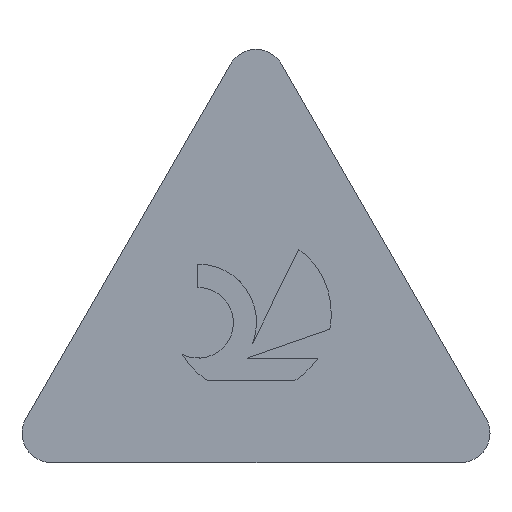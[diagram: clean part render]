
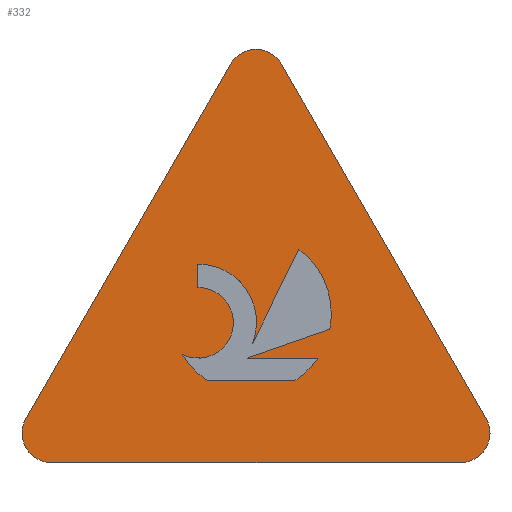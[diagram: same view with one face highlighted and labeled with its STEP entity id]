
A CAD part, top view. The second image highlights one B-rep face of the part: STEP entity #332.
In plain terms, the highlighted planar face has unit normal (0, 0, 1).
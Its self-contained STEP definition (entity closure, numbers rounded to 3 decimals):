
#138=VERTEX_POINT('',#366);
#144=VERTEX_POINT('',#373);
#146=VERTEX_POINT('',#375);
#148=EDGE_CURVE('',#264,#300,#377,.T.);
#158=EDGE_CURVE('',#202,#302,#388,.T.);
#164=EDGE_CURVE('',#302,#182,#396,.T.);
#166=VERTEX_POINT('',#398);
#170=EDGE_CURVE('',#182,#144,#403,.T.);
#174=EDGE_CURVE('',#300,#196,#408,.T.);
#182=VERTEX_POINT('',#418);
#196=VERTEX_POINT('',#433);
#198=EDGE_CURVE('',#166,#288,#435,.T.);
#202=VERTEX_POINT('',#439);
#210=EDGE_CURVE('',#146,#138,#448,.T.);
#224=EDGE_CURVE('',#314,#258,#464,.T.);
#226=EDGE_CURVE('',#272,#166,#466,.T.);
#228=EDGE_CURVE('',#248,#146,#468,.T.);
#230=VERTEX_POINT('',#470);
#242=EDGE_CURVE('',#230,#248,#484,.T.);
#248=VERTEX_POINT('',#491);
#258=VERTEX_POINT('',#502);
#264=VERTEX_POINT('',#508);
#272=VERTEX_POINT('',#516);
#286=EDGE_CURVE('',#322,#230,#531,.T.);
#288=VERTEX_POINT('',#533);
#300=VERTEX_POINT('',#546);
#302=VERTEX_POINT('',#548);
#308=EDGE_CURVE('',#138,#264,#554,.T.);
#310=EDGE_CURVE('',#258,#202,#556,.T.);
#314=VERTEX_POINT('',#560);
#316=EDGE_CURVE('',#288,#322,#562,.T.);
#320=EDGE_CURVE('',#196,#272,#566,.T.);
#322=VERTEX_POINT('',#568);
#332=ADVANCED_FACE('',(#579,#580),#581,.T.);
#336=EDGE_CURVE('',#144,#314,#585,.T.);
#366=CARTESIAN_POINT('',(2.871,2.306,0.0));
#373=CARTESIAN_POINT('',(0.344,0.595,0.0));
#375=CARTESIAN_POINT('',(2.445,1.456,0.0));
#377=LINE('',#621,#622);
#388=LINE('',#639,#640);
#396=CIRCLE('',#649,0.397);
#398=CARTESIAN_POINT('',(4.429,1.793,0.0));
#403=LINE('',#657,#658);
#408=CIRCLE('',#664,0.783);
#418=CARTESIAN_POINT('',(3.093,5.358,0.0));
#433=CARTESIAN_POINT('',(3.391,1.605,0.0));
#435=LINE('',#700,#701);
#439=CARTESIAN_POINT('',(6.531,0.595,0.0));
#448=CIRCLE('',#720,0.476);
#464=LINE('',#741,#742);
#466=CIRCLE('',#745,1.077);
#468=CIRCLE('',#748,1.077);
#470=CARTESIAN_POINT('',(3.96,1.1,0.0));
#484=LINE('',#766,#767);
#491=CARTESIAN_POINT('',(2.786,1.1,0.0));
#502=CARTESIAN_POINT('',(6.187,0.0,0.0));
#508=CARTESIAN_POINT('',(2.655,2.356,0.0));
#516=CARTESIAN_POINT('',(4.014,2.869,0.0));
#531=CIRCLE('',#828,1.077);
#533=CARTESIAN_POINT('',(3.318,1.407,0.0));
#546=CARTESIAN_POINT('',(2.655,2.669,0.0));
#548=CARTESIAN_POINT('',(3.781,5.358,0.0));
#554=CIRCLE('',#862,0.476);
#556=CIRCLE('',#865,0.397);
#560=CARTESIAN_POINT('',(0.688,0.0,0.0));
#562=LINE('',#872,#873);
#566=LINE('',#878,#879);
#568=CARTESIAN_POINT('',(4.27,1.407,0.0));
#579=FACE_BOUND('',#895,.T.);
#580=FACE_OUTER_BOUND('',#896,.T.);
#581=PLANE('',#897);
#585=CIRCLE('',#904,0.397);
#621=CARTESIAN_POINT('',(2.655,2.327,0.0));
#622=VECTOR('',#928,1.0);
#639=CARTESIAN_POINT('',(6.531,0.596,0.0));
#640=VECTOR('',#942,1.0);
#649=AXIS2_PLACEMENT_3D('',#959,#960,#961);
#657=CARTESIAN_POINT('',(3.093,5.358,0.0));
#658=VECTOR('',#970,1.0);
#664=AXIS2_PLACEMENT_3D('',#979,#980,#981);
#700=CARTESIAN_POINT('',(3.461,1.456,0.0));
#701=VECTOR('',#1010,1.0);
#720=AXIS2_PLACEMENT_3D('',#1024,#1025,#1026);
#741=CARTESIAN_POINT('',(0.688,0.0,0.0));
#742=VECTOR('',#1045,1.0);
#745=AXIS2_PLACEMENT_3D('',#1046,#1047,#1048);
#748=AXIS2_PLACEMENT_3D('',#1049,#1050,#1051);
#766=CARTESIAN_POINT('',(3.111,1.1,0.0));
#767=VECTOR('',#1071,1.0);
#828=AXIS2_PLACEMENT_3D('',#1117,#1118,#1119);
#862=AXIS2_PLACEMENT_3D('',#1133,#1134,#1135);
#865=AXIS2_PLACEMENT_3D('',#1136,#1137,#1138);
#872=CARTESIAN_POINT('',(3.854,1.407,0.0));
#873=VECTOR('',#1139,1.0);
#878=CARTESIAN_POINT('',(3.782,2.399,0.0));
#879=VECTOR('',#1140,1.0);
#895=EDGE_LOOP('',(#1155,#1156,#1157,#1158,#1159,#1160,#1161,#1162,#1163,#1164,#1165));
#896=EDGE_LOOP('',(#1166,#1167,#1168,#1169,#1170,#1171));
#897=AXIS2_PLACEMENT_3D('',#1172,#1173,#1174);
#904=AXIS2_PLACEMENT_3D('',#1176,#1177,#1178);
#928=DIRECTION('',(0.0,1.0,0.0));
#942=DIRECTION('',(-0.5,0.866,0.0));
#959=CARTESIAN_POINT('',(3.437,5.159,0.0));
#960=DIRECTION('',(0.0,-0.0,1.0));
#961=DIRECTION('',(0.866,0.5,0.0));
#970=DIRECTION('',(-0.5,-0.866,0.0));
#979=CARTESIAN_POINT('',(2.661,1.887,0.0));
#980=DIRECTION('',(0.0,-0.0,-1.0));
#981=DIRECTION('',(0.933,-0.359,0.0));
#1010=DIRECTION('',(-0.945,-0.328,0.0));
#1024=CARTESIAN_POINT('',(2.658,1.881,0.0));
#1025=DIRECTION('',(0.0,0.0,1.0));
#1026=DIRECTION('',(-0.447,-0.894,0.0));
#1045=DIRECTION('',(1.0,0.0,0.0));
#1046=CARTESIAN_POINT('',(3.373,2.003,0.0));
#1047=DIRECTION('',(0.0,-0.0,-1.0));
#1048=DIRECTION('',(0.981,-0.196,0.0));
#1049=CARTESIAN_POINT('',(3.373,2.003,0.0));
#1050=DIRECTION('',(-0.0,0.0,-1.0));
#1051=DIRECTION('',(-0.861,-0.508,0.0));
#1071=DIRECTION('',(-1.0,0.0,0.0));
#1117=CARTESIAN_POINT('',(3.373,2.003,0.0));
#1118=DIRECTION('',(0.0,-0.0,-1.0));
#1119=DIRECTION('',(0.545,-0.838,0.0));
#1133=CARTESIAN_POINT('',(2.658,1.881,0.0));
#1134=DIRECTION('',(0.0,0.0,1.0));
#1135=DIRECTION('',(-0.447,-0.894,0.0));
#1136=CARTESIAN_POINT('',(6.187,0.397,0.0));
#1137=DIRECTION('',(0.0,0.0,1.0));
#1138=DIRECTION('',(0.,-1.0,0.0));
#1139=DIRECTION('',(1.0,0.0,0.0));
#1140=DIRECTION('',(0.442,0.897,-0.0));
#1155=ORIENTED_EDGE('',*,*,#148,.T.);
#1156=ORIENTED_EDGE('',*,*,#174,.T.);
#1157=ORIENTED_EDGE('',*,*,#320,.T.);
#1158=ORIENTED_EDGE('',*,*,#226,.T.);
#1159=ORIENTED_EDGE('',*,*,#198,.T.);
#1160=ORIENTED_EDGE('',*,*,#316,.T.);
#1161=ORIENTED_EDGE('',*,*,#286,.T.);
#1162=ORIENTED_EDGE('',*,*,#242,.T.);
#1163=ORIENTED_EDGE('',*,*,#228,.T.);
#1164=ORIENTED_EDGE('',*,*,#210,.T.);
#1165=ORIENTED_EDGE('',*,*,#308,.T.);
#1166=ORIENTED_EDGE('',*,*,#224,.T.);
#1167=ORIENTED_EDGE('',*,*,#310,.T.);
#1168=ORIENTED_EDGE('',*,*,#158,.T.);
#1169=ORIENTED_EDGE('',*,*,#164,.T.);
#1170=ORIENTED_EDGE('',*,*,#170,.T.);
#1171=ORIENTED_EDGE('',*,*,#336,.T.);
#1172=CARTESIAN_POINT('',(3.437,1.985,0.0));
#1173=DIRECTION('',(0.0,0.0,1.0));
#1174=DIRECTION('',(1.0,0.0,0.0));
#1176=CARTESIAN_POINT('',(0.688,0.397,0.0));
#1177=DIRECTION('',(0.0,0.0,1.0));
#1178=DIRECTION('',(-0.866,0.5,0.0));
